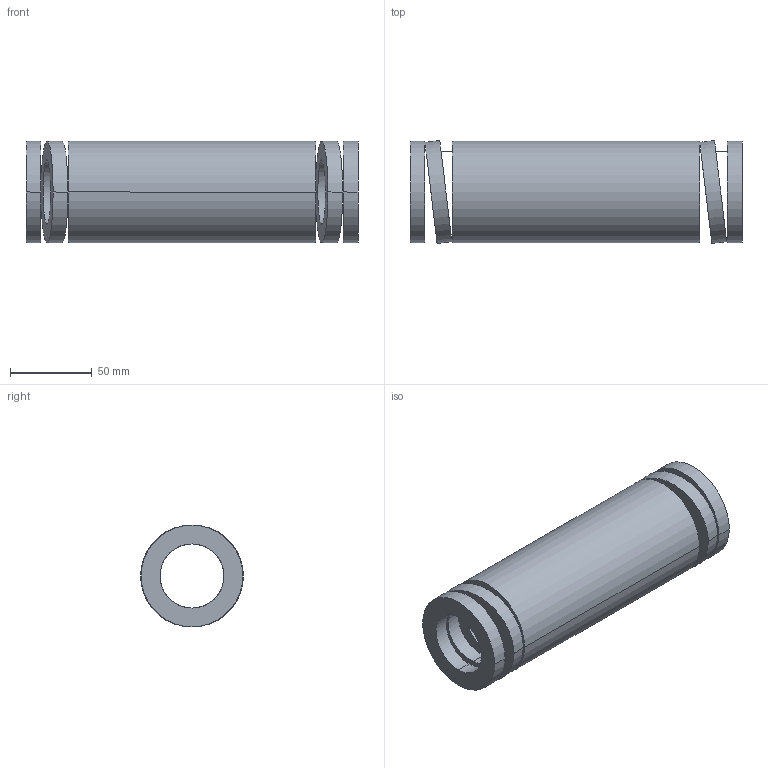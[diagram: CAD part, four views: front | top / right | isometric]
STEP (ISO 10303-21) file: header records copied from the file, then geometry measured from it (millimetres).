
FILE_DESCRIPTION(('CATIA V5 STEP Exchange'),'2;1');
FILE_NAME('C:\Users\Utente\Desktop\IO LAVORO\3D X SITO CF\X SITO\3D files 392B\392-B63-203.stp','2021-08-13T11:44:30+00:00',('none'),('none'),'CATIA Version 5 Release 20 GA (IN-10)','CATIA V5 STEP AP203','none');
FILE_SCHEMA(('CONFIG_CONTROL_DESIGN'));
Length unit declared in the file: millimetre
Products named in the file (1): 392-B63-203
Bounding box: 203 x 62.84 x 62.2 mm (x, y, z)
Volume: 343473.3 mm3; surface area: 78069.5 mm2
Topology: 1 solids, 1 shells, 38 faces, 92 edges, 64 vertices
Faces by surface type: cylinder 28, plane 10
Entity records: 1566 total; most frequent: CARTESIAN_POINT 677, ORIENTED_EDGE 184, DIRECTION 129, EDGE_CURVE 92, AXIS2_PLACEMENT_3D 64, VERTEX_POINT 64, EDGE_LOOP 56, B_SPLINE_CURVE_WITH_KNOTS 39
